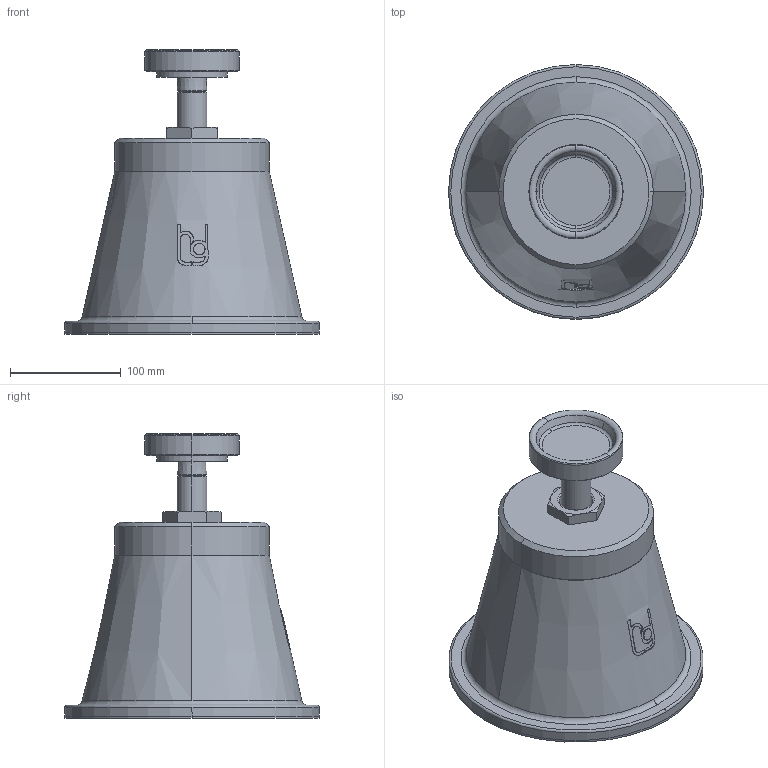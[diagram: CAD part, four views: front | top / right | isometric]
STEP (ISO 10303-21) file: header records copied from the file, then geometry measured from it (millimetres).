
FILE_DESCRIPTION(('STEP AP214'),'1');
FILE_NAME('RSRFN-05-V0.stp','2018-06-29T13:17:27',(' '),(' '),'Spatial InterOp 3D',' ',' ');
FILE_SCHEMA(('automotive_design'));
Length unit declared in the file: millimetre
Products named in the file (6): 1; 2; 3; 4; 5; 6
Bounding box: 230 x 230 x 256.99 mm (x, y, z)
Volume: 4245997.3 mm3; surface area: 318865.8 mm2
Topology: 6 solids, 6 shells, 121 faces, 291 edges, 187 vertices
Faces by surface type: cylinder 40, plane 40, cone 27, torus 14
Entity records: 5016 total; most frequent: CARTESIAN_POINT 1063, DIRECTION 635, ORIENTED_EDGE 582, EDGE_CURVE 291, AXIS2_PLACEMENT_3D 259, VERTEX_POINT 187, EDGE_LOOP 128, STYLED_ITEM 127
